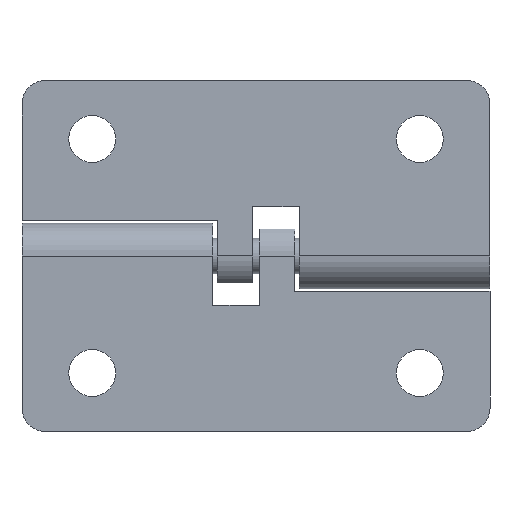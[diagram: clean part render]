
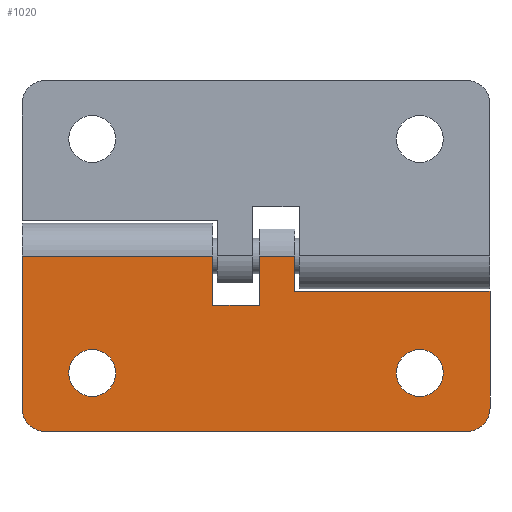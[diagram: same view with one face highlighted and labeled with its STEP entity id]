
A CAD part, left-side view. The second image highlights one B-rep face of the part: STEP entity #1020.
In plain terms, the highlighted planar face has unit normal (-1, 0, 0) as drawn and (0, 0, -1) by its records, which use the part's own axes.
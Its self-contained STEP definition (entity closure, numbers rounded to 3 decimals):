
#4 = VERTEX_POINT ( 'NONE', #267 ) ;
#10 = VERTEX_POINT ( 'NONE', #313 ) ;
#11 = ORIENTED_EDGE ( 'NONE', *, *, #1366, .T. ) ;
#15 = EDGE_CURVE ( 'NONE', #4, #1230, #364, .T. ) ;
#32 = VERTEX_POINT ( 'NONE', #503 ) ;
#33 = VERTEX_POINT ( 'NONE', #504 ) ;
#37 = ORIENTED_EDGE ( 'NONE', *, *, #1356, .F. ) ;
#47 = ORIENTED_EDGE ( 'NONE', *, *, #15, .F. ) ;
#48 = VERTEX_POINT ( 'NONE', #592 ) ;
#52 = EDGE_CURVE ( 'NONE', #32, #1382, #643, .T. ) ;
#58 = ORIENTED_EDGE ( 'NONE', *, *, #399, .F. ) ;
#76 = EDGE_CURVE ( 'NONE', #1335, #48, #770, .T. ) ;
#85 = ORIENTED_EDGE ( 'NONE', *, *, #52, .T. ) ;
#96 = EDGE_LOOP ( 'NONE', ( #740, #37 ) ) ;
#108 = EDGE_CURVE ( 'NONE', #155, #32, #349, .T. ) ;
#136 = EDGE_LOOP ( 'NONE', ( #85, #1354, #47, #1334, #982, #58, #334, #11, #812, #964, #217, #140 ) ) ;
#140 = ORIENTED_EDGE ( 'NONE', *, *, #108, .T. ) ;
#155 = VERTEX_POINT ( 'NONE', #682 ) ;
#158 = ORIENTED_EDGE ( 'NONE', *, *, #656, .F. ) ;
#196 = EDGE_CURVE ( 'NONE', #33, #261, #282, .T. ) ;
#198 = EDGE_CURVE ( 'NONE', #1350, #1329, #293, .T. ) ;
#200 = EDGE_CURVE ( 'NONE', #155, #224, #318, .T. ) ;
#217 = ORIENTED_EDGE ( 'NONE', *, *, #200, .F. ) ;
#223 = VERTEX_POINT ( 'NONE', #473 ) ;
#224 = VERTEX_POINT ( 'NONE', #474 ) ;
#261 = VERTEX_POINT ( 'NONE', #514 ) ;
#267 = CARTESIAN_POINT ( 'NONE',  ( -15., 18., -2.8 ) ) ;
#282 = LINE ( 'NONE', #283, #284 ) ;
#283 = CARTESIAN_POINT ( 'NONE',  ( 2.8, 3.3, -2.8 ) ) ;
#284 = VECTOR ( 'NONE', #285, 1000. ) ;
#285 = DIRECTION ( 'NONE',  ( -1., 0., 0. ) ) ;
#293 = CIRCLE ( 'NONE', #294, 2. ) ;
#294 = AXIS2_PLACEMENT_3D ( 'NONE', #298, #299, #300 ) ;
#295 = ORIENTED_EDGE ( 'NONE', *, *, #198, .F. ) ;
#298 = CARTESIAN_POINT ( 'NONE',  ( -10., 14., -2.8 ) ) ;
#299 = DIRECTION ( 'NONE',  ( 0., 0., -1. ) ) ;
#300 = DIRECTION ( 'NONE',  ( -1., 0., 0. ) ) ;
#313 = CARTESIAN_POINT ( 'NONE',  ( -3., 20., -2.8 ) ) ;
#318 = LINE ( 'NONE', #319, #320 ) ;
#319 = CARTESIAN_POINT ( 'NONE',  ( -4.2, -3.7, -2.8 ) ) ;
#320 = VECTOR ( 'NONE', #321, 1000. ) ;
#321 = DIRECTION ( 'NONE',  ( -1., 0., 0. ) ) ;
#334 = ORIENTED_EDGE ( 'NONE', *, *, #196, .F. ) ;
#349 = LINE ( 'NONE', #350, #351 ) ;
#350 = CARTESIAN_POINT ( 'NONE',  ( 0., 20., -2.8 ) ) ;
#351 = VECTOR ( 'NONE', #352, 1000. ) ;
#352 = DIRECTION ( 'NONE',  ( 0., -1., 0. ) ) ;
#356 = CARTESIAN_POINT ( 'NONE',  ( -13., -20., -2.8 ) ) ;
#364 = LINE ( 'NONE', #365, #366 ) ;
#365 = CARTESIAN_POINT ( 'NONE',  ( -15., 20., -2.8 ) ) ;
#366 = VECTOR ( 'NONE', #367, 1000. ) ;
#367 = DIRECTION ( 'NONE',  ( 0., -1., 0. ) ) ;
#386 = CARTESIAN_POINT ( 'NONE',  ( -15., -18., -2.8 ) ) ;
#399 = EDGE_CURVE ( 'NONE', #261, #10, #588, .T. ) ;
#400 = CIRCLE ( 'NONE', #401, 2. ) ;
#401 = AXIS2_PLACEMENT_3D ( 'NONE', #402, #403, #404 ) ;
#402 = CARTESIAN_POINT ( 'NONE',  ( -13., 18., -2.8 ) ) ;
#403 = DIRECTION ( 'NONE',  ( 0., 0., -1. ) ) ;
#404 = DIRECTION ( 'NONE',  ( 1., 0., 0. ) ) ;
#434 = LINE ( 'NONE', #435, #436 ) ;
#435 = CARTESIAN_POINT ( 'NONE',  ( 0., 20., -2.8 ) ) ;
#436 = VECTOR ( 'NONE', #437, 1000. ) ;
#437 = DIRECTION ( 'NONE',  ( -1., 0., 0. ) ) ;
#473 = CARTESIAN_POINT ( 'NONE',  ( -4.2, 0.3, -2.8 ) ) ;
#474 = CARTESIAN_POINT ( 'NONE',  ( -4.2, -3.7, -2.8 ) ) ;
#503 = CARTESIAN_POINT ( 'NONE',  ( 0., -20., -2.8 ) ) ;
#504 = CARTESIAN_POINT ( 'NONE',  ( 0., 3.3, -2.8 ) ) ;
#514 = CARTESIAN_POINT ( 'NONE',  ( -3., 3.3, -2.8 ) ) ;
#560 = CIRCLE ( 'NONE', #561, 2. ) ;
#561 = AXIS2_PLACEMENT_3D ( 'NONE', #562, #563, #564 ) ;
#562 = CARTESIAN_POINT ( 'NONE',  ( -13., -18., -2.8 ) ) ;
#563 = DIRECTION ( 'NONE',  ( 0., 0., -1. ) ) ;
#564 = DIRECTION ( 'NONE',  ( 1., 0., 0. ) ) ;
#586 = CARTESIAN_POINT ( 'NONE',  ( -8., 14., -2.8 ) ) ;
#588 = LINE ( 'NONE', #589, #590 ) ;
#589 = CARTESIAN_POINT ( 'NONE',  ( -3., 20., -2.8 ) ) ;
#590 = VECTOR ( 'NONE', #591, 1000. ) ;
#591 = DIRECTION ( 'NONE',  ( 0., 1., 0. ) ) ;
#592 = CARTESIAN_POINT ( 'NONE',  ( -8., -14., -2.8 ) ) ;
#643 = LINE ( 'NONE', #644, #645 ) ;
#644 = CARTESIAN_POINT ( 'NONE',  ( 0., -20., -2.8 ) ) ;
#645 = VECTOR ( 'NONE', #646, 1000. ) ;
#646 = DIRECTION ( 'NONE',  ( -1., 0., 0. ) ) ;
#647 = CARTESIAN_POINT ( 'NONE',  ( -12., -14., -2.8 ) ) ;
#656 = EDGE_CURVE ( 'NONE', #1329, #1350, #753, .T. ) ;
#657 = EDGE_CURVE ( 'NONE', #223, #1361, #761, .T. ) ;
#682 = CARTESIAN_POINT ( 'NONE',  ( 0., -3.7, -2.8 ) ) ;
#740 = ORIENTED_EDGE ( 'NONE', *, *, #76, .F. ) ;
#753 = CIRCLE ( 'NONE', #754, 2. ) ;
#754 = AXIS2_PLACEMENT_3D ( 'NONE', #755, #756, #759 ) ;
#755 = CARTESIAN_POINT ( 'NONE',  ( -10., 14., -2.8 ) ) ;
#756 = DIRECTION ( 'NONE',  ( 0., 0., -1. ) ) ;
#759 = DIRECTION ( 'NONE',  ( -1., 0., 0. ) ) ;
#760 = CARTESIAN_POINT ( 'NONE',  ( -12., 14., -2.8 ) ) ;
#761 = LINE ( 'NONE', #762, #763 ) ;
#762 = CARTESIAN_POINT ( 'NONE',  ( 2.8, 0.3, -2.8 ) ) ;
#763 = VECTOR ( 'NONE', #764, 1000. ) ;
#764 = DIRECTION ( 'NONE',  ( 1., 0., 0. ) ) ;
#765 = CIRCLE ( 'NONE', #766, 2. ) ;
#766 = AXIS2_PLACEMENT_3D ( 'NONE', #767, #768, #769 ) ;
#767 = CARTESIAN_POINT ( 'NONE',  ( -10., -14., -2.8 ) ) ;
#768 = DIRECTION ( 'NONE',  ( 0., 0., -1. ) ) ;
#769 = DIRECTION ( 'NONE',  ( -1., 0., 0. ) ) ;
#770 = CIRCLE ( 'NONE', #771, 2. ) ;
#771 = AXIS2_PLACEMENT_3D ( 'NONE', #772, #773, #774 ) ;
#772 = CARTESIAN_POINT ( 'NONE',  ( -10., -14., -2.8 ) ) ;
#773 = DIRECTION ( 'NONE',  ( 0., 0., -1. ) ) ;
#774 = DIRECTION ( 'NONE',  ( -1., 0., 0. ) ) ;
#790 = CARTESIAN_POINT ( 'NONE',  ( 0., 0.3, -2.8 ) ) ;
#792 = EDGE_LOOP ( 'NONE', ( #295, #158 ) ) ;
#812 = ORIENTED_EDGE ( 'NONE', *, *, #657, .F. ) ;
#813 = EDGE_CURVE ( 'NONE', #224, #223, #845, .T. ) ;
#824 = LINE ( 'NONE', #825, #826 ) ;
#825 = CARTESIAN_POINT ( 'NONE',  ( 0., 20., -2.8 ) ) ;
#826 = VECTOR ( 'NONE', #827, 1000. ) ;
#827 = DIRECTION ( 'NONE',  ( 0., -1., 0. ) ) ;
#845 = LINE ( 'NONE', #846, #848 ) ;
#846 = CARTESIAN_POINT ( 'NONE',  ( -4.2, 0.3, -2.8 ) ) ;
#848 = VECTOR ( 'NONE', #849, 1000. ) ;
#849 = DIRECTION ( 'NONE',  ( 0., 1., 0. ) ) ;
#888 = FACE_BOUND ( 'NONE', #792, .T. ) ;
#889 = FACE_OUTER_BOUND ( 'NONE', #136, .T. ) ;
#890 = FACE_BOUND ( 'NONE', #96, .T. ) ;
#891 = PLANE ( 'NONE',  #892 ) ;
#892 = AXIS2_PLACEMENT_3D ( 'NONE', #893, #894, #895 ) ;
#893 = CARTESIAN_POINT ( 'NONE',  ( 0., 20., -2.8 ) ) ;
#894 = DIRECTION ( 'NONE',  ( 0., 0., 1. ) ) ;
#895 = DIRECTION ( 'NONE',  ( 1., 0., 0. ) ) ;
#904 = CARTESIAN_POINT ( 'NONE',  ( -13., 20., -2.8 ) ) ;
#964 = ORIENTED_EDGE ( 'NONE', *, *, #813, .F. ) ;
#982 = ORIENTED_EDGE ( 'NONE', *, *, #1285, .F. ) ;
#1020 = ADVANCED_FACE ( 'NONE', ( #888, #889, #890 ), #891, .F. ) ;
#1038 = VERTEX_POINT ( 'NONE', #904 ) ;
#1230 = VERTEX_POINT ( 'NONE', #386 ) ;
#1248 = EDGE_CURVE ( 'NONE', #4, #1038, #400, .T. ) ;
#1285 = EDGE_CURVE ( 'NONE', #10, #1038, #434, .T. ) ;
#1327 = EDGE_CURVE ( 'NONE', #1382, #1230, #560, .T. ) ;
#1329 = VERTEX_POINT ( 'NONE', #586 ) ;
#1334 = ORIENTED_EDGE ( 'NONE', *, *, #1248, .T. ) ;
#1335 = VERTEX_POINT ( 'NONE', #647 ) ;
#1350 = VERTEX_POINT ( 'NONE', #760 ) ;
#1354 = ORIENTED_EDGE ( 'NONE', *, *, #1327, .T. ) ;
#1356 = EDGE_CURVE ( 'NONE', #48, #1335, #765, .T. ) ;
#1361 = VERTEX_POINT ( 'NONE', #790 ) ;
#1366 = EDGE_CURVE ( 'NONE', #33, #1361, #824, .T. ) ;
#1382 = VERTEX_POINT ( 'NONE', #356 ) ;
